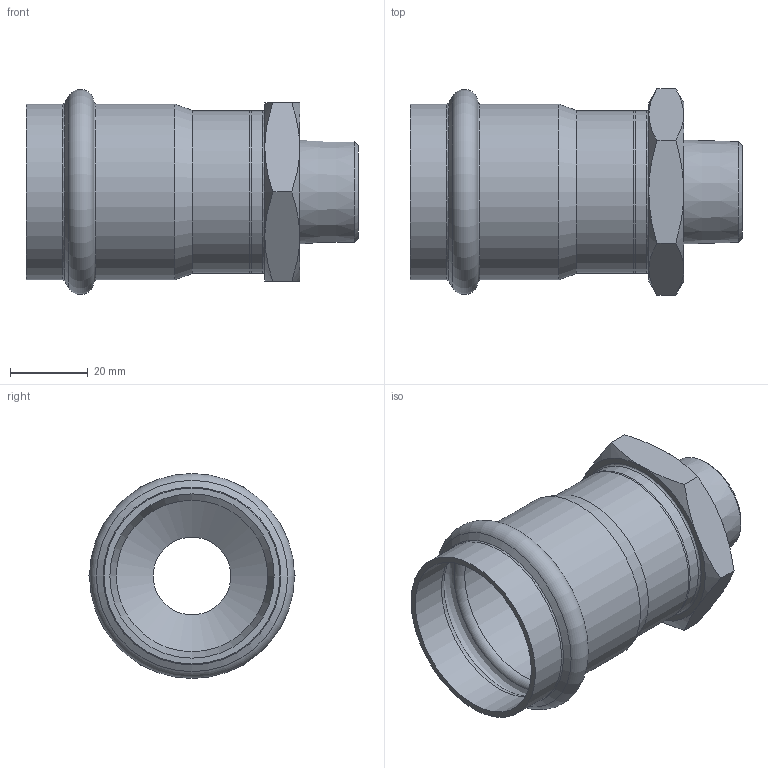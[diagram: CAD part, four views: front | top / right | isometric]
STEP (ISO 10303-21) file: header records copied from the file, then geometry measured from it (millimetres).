
FILE_DESCRIPTION((''),'2;1');
FILE_NAME('G:\Nirosan-Schmiedefeld\Technics\CAD\001 Serie 9.000\042\69243G4234H(0).stp','2018-10-16T10:47:49',('herberg'),(''),'Autodesk Inventor 2009','Autodesk Inventor 2009','');
FILE_SCHEMA(('AUTOMOTIVE_DESIGN { 1 0 10303 214 1 1 1 1 }'));
Length unit declared in the file: centimetre
Products named in the file (3): 69243G4234H(0); 69243G42HM(1); 69ATAG42R34P(0)
Assembly tree (2 placements, depth 2):
  69243G4234H(0)
    69243G42HM(1)
    69ATAG42R34P(0)
Bounding box: 85.5 x 53.12 x 52.79 mm (x, y, z)
Volume: 26492.9 mm3; surface area: 25289.1 mm2
Topology: 2 solids, 2 shells, 47 faces, 94 edges, 53 vertices
Faces by surface type: cone 18, plane 12, bspline 7, cylinder 7, torus 3
Full cylindrical faces by diameter (mm): 39 x1, 42 x2, 42.3 x2, 45.3 x2
Entity records: 1373 total; most frequent: CARTESIAN_POINT 485, DIRECTION 176, ORIENTED_EDGE 140, AXIS2_PLACEMENT_3D 85, EDGE_LOOP 76, EDGE_CURVE 70, VERTEX_POINT 52, FACE_OUTER_BOUND 47
